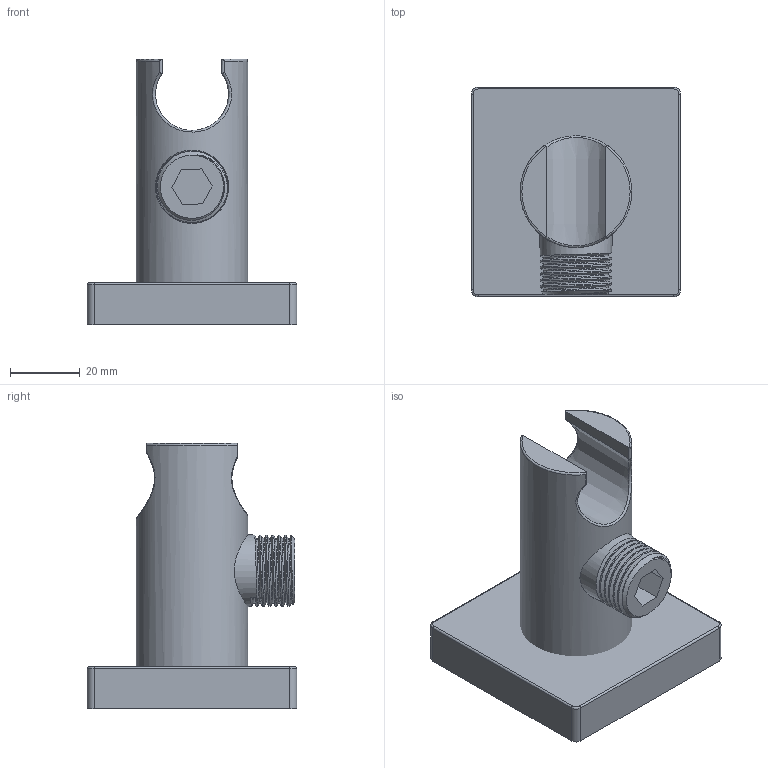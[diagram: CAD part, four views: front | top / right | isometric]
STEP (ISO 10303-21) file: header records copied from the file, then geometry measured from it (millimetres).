
FILE_DESCRIPTION(/* description */ (''),/* implementation_level */ '2;1');
FILE_NAME(/* name */ 'c:\worker\convert-fusion-r09\tmp\job-1\14\output\files\e4ede717-b184-46f0-83da-1c543b68d181\cb65f2d3-61a3-479e-a538-f4166ed42ea6.stp',/* time_stamp */ '2019-12-14T17:59:54+00:00',/* author */ (''),/* organization */ (''),/* preprocessor_version */ 'ST-DEVELOPER v18',/* originating_system */ 'Autodesk Translation Framework v8.12.0.6',/* authorisation */ '');
FILE_SCHEMA (('AUTOMOTIVE_DESIGN { 1 0 10303 214 3 1 1 }'));
Length unit declared in the file: millimetre
Products named in the file (1): !8873/K
Bounding box: 60 x 60 x 76 mm (x, y, z)
Volume: 91617.8 mm3; surface area: 20898.2 mm2
Topology: 2 solids, 2 shells, 61 faces, 188 edges, 133 vertices
Faces by surface type: cylinder 29, plane 20, torus 6, bspline 4, cone 2
Full cylindrical faces by diameter (mm): 18.6 x6, 20.5 x6, 21 x1, 32 x1
Entity records: 5848 total; most frequent: CARTESIAN_POINT 4293, ORIENTED_EDGE 376, DIRECTION 261, EDGE_CURVE 188, VERTEX_POINT 133, AXIS2_PLACEMENT_3D 97, LINE 67, VECTOR 67
